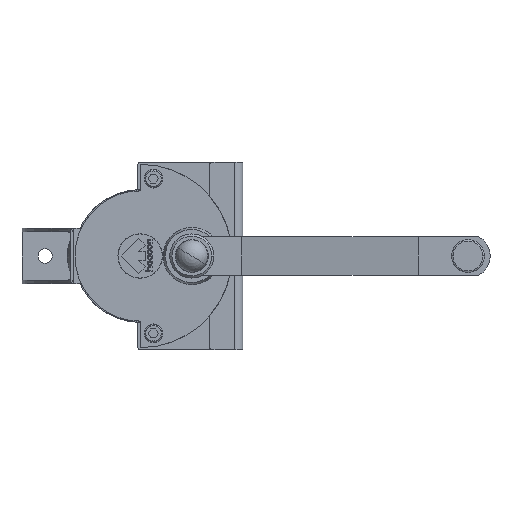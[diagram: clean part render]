
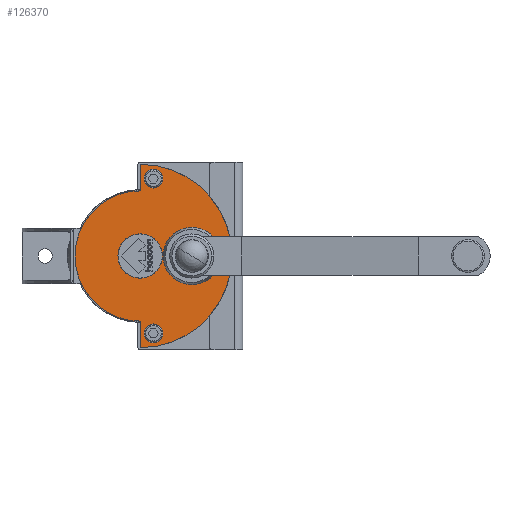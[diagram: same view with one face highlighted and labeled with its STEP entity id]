
A CAD part, front view. The second image highlights one B-rep face of the part: STEP entity #126370.
In plain terms, the highlighted planar face has unit normal (0, -1, 0).
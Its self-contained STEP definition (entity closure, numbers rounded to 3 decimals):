
#14170=CARTESIAN_POINT('',(-83.8,-168.577,-12.));
#14180=VERTEX_POINT('',#14170);
#14340=CARTESIAN_POINT('',(-66.8,-168.577,-12.));
#14350=VERTEX_POINT('',#14340);
#14380=CARTESIAN_POINT('',(-75.3,-168.577,-12.));
#14390=DIRECTION('',(0.,1.,0.));
#14400=DIRECTION('',(-1.,-0.,0.));
#14410=AXIS2_PLACEMENT_3D('',#14380,#14390,#14400);
#14420=CIRCLE('',#14410,8.5);
#14430=EDGE_CURVE('',#14350,#14180,#14420,.T.);
#26720=EDGE_CURVE('',#14180,#14350,#14420,.T.);
#33390=CARTESIAN_POINT('',(-5.3,-168.577,
-20.75));
#33400=VERTEX_POINT('',#33390);
#33560=CARTESIAN_POINT('',(-5.3,-168.577,
-72.75));
#33570=VERTEX_POINT('',#33560);
#33600=CARTESIAN_POINT('',(-5.3,-168.577,
-46.75));
#33610=DIRECTION('',(0.,-1.,0.));
#33620=DIRECTION('',(0.,0.,-1.));
#33630=AXIS2_PLACEMENT_3D('',#33600,#33610,#33620);
#33640=CIRCLE('',#33630,26.);
#33650=EDGE_CURVE('',#33400,#33570,#33640,.T.);
#61670=CARTESIAN_POINT('',(-5.3,-168.577,
20.1));
#61680=VERTEX_POINT('',#61670);
#61760=CARTESIAN_POINT('',(-5.3,-168.577,
-20.1));
#61770=VERTEX_POINT('',#61760);
#61800=CARTESIAN_POINT('',(-5.3,-168.577,
0.));
#61810=DIRECTION('',(0.,-1.,0.));
#61820=DIRECTION('',(0.,0.,1.));
#61830=AXIS2_PLACEMENT_3D('',#61800,#61810,#61820);
#61840=CIRCLE('',#61830,20.1);
#61850=EDGE_CURVE('',#61680,#61770,#61840,.T.);
#89130=EDGE_CURVE('',#61770,#61680,#61840,.T.);
#89990=EDGE_CURVE('',#33570,#33400,#33640,.T.);
#124950=CARTESIAN_POINT('',(-64.3,-168.577,0.
));
#124960=VERTEX_POINT('',#124950);
#124990=CARTESIAN_POINT('',(-64.3,-168.577,0.
));
#125000=DIRECTION('',(-1.,-0.,0.));
#125010=VECTOR('',#125000,1.);
#125020=LINE('',#124990,#125010);
#125030=CARTESIAN_POINT('',(-88.3,-168.577,0.
));
#125040=VERTEX_POINT('',#125030);
#125050=EDGE_CURVE('',#124960,#125040,#125020,.T.);
#125260=CARTESIAN_POINT('',(53.7,-168.577,0.)
);
#125270=VERTEX_POINT('',#125260);
#125300=CARTESIAN_POINT('',(-5.3,-168.577,
0.));
#125310=DIRECTION('',(0.,1.,0.));
#125320=DIRECTION('',(-1.,-0.,0.));
#125330=AXIS2_PLACEMENT_3D('',#125300,#125310,#125320);
#125340=CIRCLE('',#125330,59.);
#125350=EDGE_CURVE('',#124960,#125270,#125340,.T.);
#125790=CARTESIAN_POINT('',(77.7,-168.577,0.)
);
#125800=VERTEX_POINT('',#125790);
#125830=CARTESIAN_POINT('',(53.7,-168.577,0.)
);
#125840=DIRECTION('',(1.,0.,0.));
#125850=VECTOR('',#125840,1.);
#125860=LINE('',#125830,#125850);
#125870=EDGE_CURVE('',#125270,#125800,#125860,.T.);
#125930=CARTESIAN_POINT('',(-5.3,-168.577,
-46.75));
#125940=DIRECTION('',(0.,1.,-0.));
#125950=DIRECTION('',(-1.,-0.,0.));
#125960=AXIS2_PLACEMENT_3D('',#125930,#125940,#125950);
#125970=PLANE('',#125960);
#125980=ORIENTED_EDGE('',*,*,#125870,.F.);
#125990=CARTESIAN_POINT('',(-5.3,-168.577,
0.));
#126000=DIRECTION('',(0.,1.,0.));
#126010=DIRECTION('',(-1.,-0.,0.));
#126020=AXIS2_PLACEMENT_3D('',#125990,#126000,#126010);
#126030=CIRCLE('',#126020,83.);
#126040=EDGE_CURVE('',#125800,#125040,#126030,.T.);
#126050=ORIENTED_EDGE('',*,*,#126040,.F.);
#126060=ORIENTED_EDGE('',*,*,#125050,.T.);
#126070=ORIENTED_EDGE('',*,*,#125350,.F.);
#126080=EDGE_LOOP('',(#126070,#126060,#126050,#125980));
#126090=FACE_OUTER_BOUND('',#126080,.T.);
#126100=CARTESIAN_POINT('',(64.7,-168.577,-12.));
#126110=DIRECTION('',(0.,-1.,0.));
#126120=DIRECTION('',(1.,0.,0.));
#126130=AXIS2_PLACEMENT_3D('',#126100,#126110,#126120);
#126140=CIRCLE('',#126130,8.5);
#126150=CARTESIAN_POINT('',(73.2,-168.577,-12.));
#126160=VERTEX_POINT('',#126150);
#126170=CARTESIAN_POINT('',(56.2,-168.577,-12.));
#126180=VERTEX_POINT('',#126170);
#126190=EDGE_CURVE('',#126160,#126180,#126140,.T.);
#126200=ORIENTED_EDGE('',*,*,#126190,.F.);
#126210=EDGE_CURVE('',#126180,#126160,#126140,.T.);
#126220=ORIENTED_EDGE('',*,*,#126210,.F.);
#126230=EDGE_LOOP('',(#126220,#126200));
#126240=FACE_BOUND('',#126230,.T.);
#126250=ORIENTED_EDGE('',*,*,#26720,.T.);
#126260=ORIENTED_EDGE('',*,*,#14430,.T.);
#126270=EDGE_LOOP('',(#126260,#126250));
#126280=FACE_BOUND('',#126270,.T.);
#126290=ORIENTED_EDGE('',*,*,#89990,.F.);
#126300=ORIENTED_EDGE('',*,*,#33650,.F.);
#126310=EDGE_LOOP('',(#126300,#126290));
#126320=FACE_BOUND('',#126310,.T.);
#126330=ORIENTED_EDGE('',*,*,#89130,.F.);
#126340=ORIENTED_EDGE('',*,*,#61850,.F.);
#126350=EDGE_LOOP('',(#126340,#126330));
#126360=FACE_BOUND('',#126350,.T.);
#126370=ADVANCED_FACE('',(#126090,#126240,#126280,#126320,#126360),
#125970,.F.);
